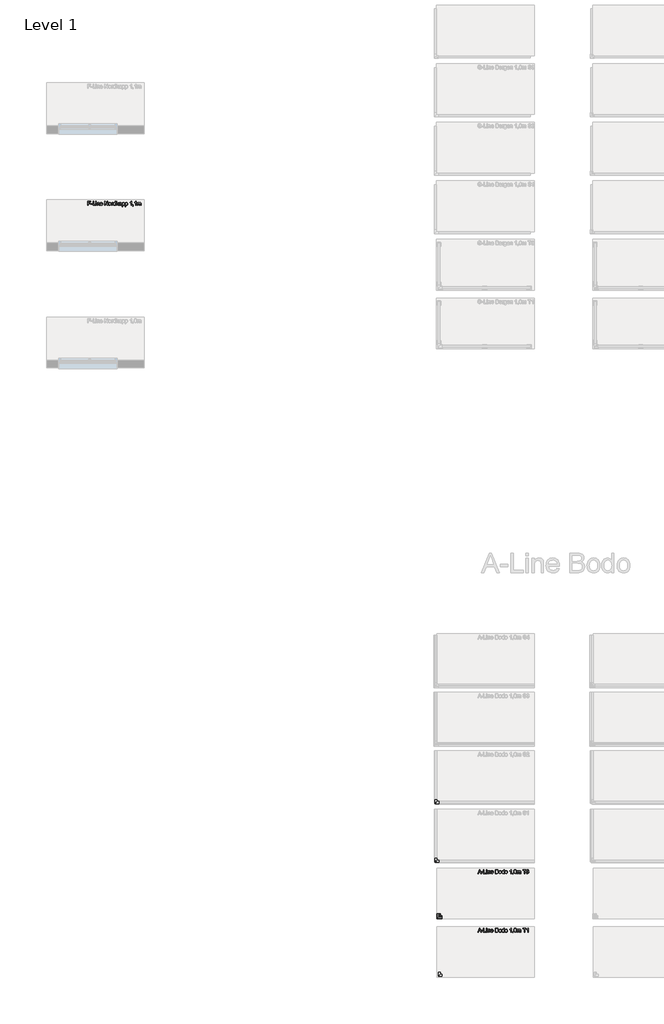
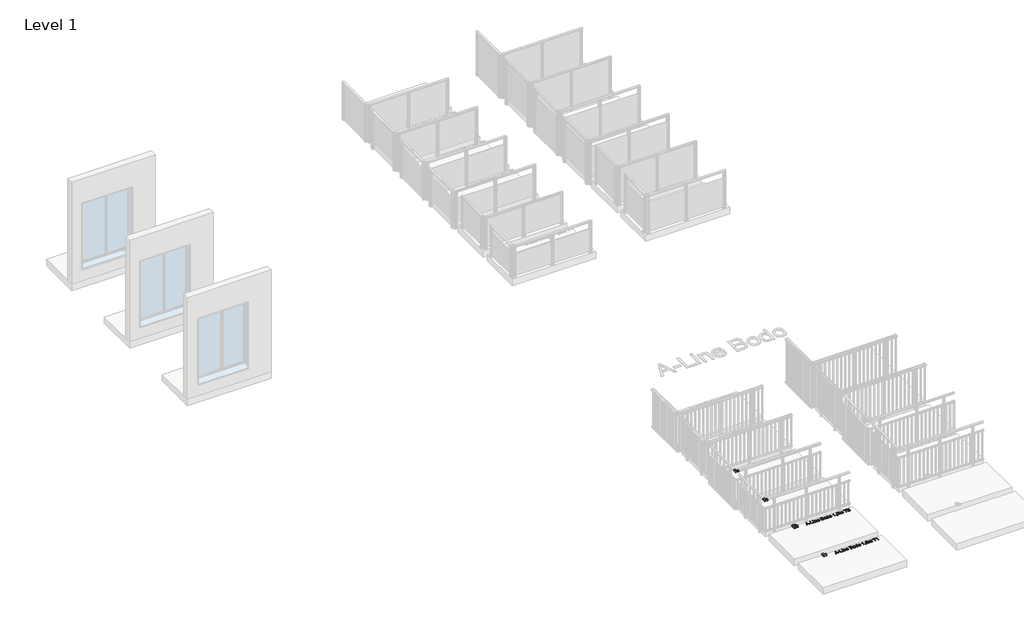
# One storey, part 48 of 66: 7 proxies.
"""IFC4 building model written with IfcOpenShell, lengths in millimetres."""

from ifc_helpers import new_model, si_unit, origin, origin_with_axes, place, context, project, spatial, polyline, outline, extrude, transform, mapped, element, save
from components import generic_models_029e0633, generic_models_224f447f

model = new_model("IFC4")

# Units and contexts
model_context = context("Model", 3, world=origin())
ifc_project = project(units=[si_unit("LENGTHUNIT", "METRE", prefix="MILLI")], contexts=[model_context])

# Site, building, storey
site = spatial("IfcSite", under=ifc_project)
building = spatial("IfcBuilding", under=site)
storey = spatial("IfcBuildingStorey", under=building, Name="Level 1", Elevation=0.0)

# Proxies
placement = place(None, origin())
generic_models_shape = generic_models_029e0633(model_context)
element("IfcBuildingElementProxy", 1, Name="Innore top rail 51x43 corner element : Innore top rail 51x43 element", ObjectType="Innore top rail 51x43 corner element : Innore top rail 51x43 element", at=placement, inside=storey, context=model_context, shape_type="MappedRepresentation", body=[
    mapped(generic_models_shape, transform((4483.61192, -16091.0355576, 1000.0), x_axis=(0.0, -1.0, 0.0), y_axis=(1.0, 0.0, 0.0), z_axis=(0.0, 0.0, 1.0))),
])
element("IfcBuildingElementProxy", 2, Name="Innore top rail 51x43 corner element : Innore top rail 51x43 element", ObjectType="Innore top rail 51x43 corner element : Innore top rail 51x43 element", at=placement, inside=storey, context=model_context, shape_type="MappedRepresentation", body=[
    mapped(generic_models_shape, transform((4564.0547322, -20508.694769, 1000.0), x_axis=(0.0, -1.0, 0.0), y_axis=(1.0, 0.0, 0.0), z_axis=(0.0, 0.0, 1.0))),
])
element("IfcBuildingElementProxy", 3, Name="Innore top rail 51x43 corner element : Innore top rail 51x43 element", ObjectType="Innore top rail 51x43 corner element : Innore top rail 51x43 element", at=placement, inside=storey, context=model_context, shape_type="MappedRepresentation", body=[
    mapped(generic_models_shape, transform((4483.61192, -17590.9416671, 1000.0), x_axis=(0.0, -1.0, 0.0), y_axis=(1.0, 0.0, 0.0), z_axis=(0.0, 0.0, 1.0))),
])
generic_models_2_shape = generic_models_224f447f(model_context)
element("IfcBuildingElementProxy", 4, Name="Innore top rail 81x35 corner element : Innore top rail 81x35 element", ObjectType="Innore top rail 81x35 corner element : Innore top rail 81x35 element", at=placement, inside=storey, context=model_context, shape_type="MappedRepresentation", body=[
    mapped(generic_models_2_shape, transform((4545.5706864, -19028.211505, 1000.0), x_axis=(0.0, -1.0, 0.0), y_axis=(1.0, 0.0, 0.0), z_axis=(0.0, 0.0, 1.0))),
])
element("IfcBuildingElementProxy", 5, Name="100mm Arial", ObjectType="100mm Arial", at=placement, inside=storey, context=model_context, shape_type="SweptSolid", body=[
    extrude(outline(polyline([(5549.8662562, -19409.7113559), (5589.9653937, -19309.2550458), (5600.658497, -19309.2550458), (5640.7576345, -19409.7113559), (5627.4893572, -19409.7113559), (5615.9869135, -19378.318759), (5574.6124518, -19378.318759), (5563.1345335, -19409.7113559), (5549.8662562, -19409.7113559)]), holes=[polyline([(5579.2232395, -19365.7617202), (5611.4006513, -19365.7617202), (5602.3507542, -19341.0645756), (5595.3119454, -19321.8120845), (5589.0579515, -19338.9063346), (5579.2232395, -19365.7617202)])]), origin_with_axes(), (0.0, 0.0, 1.0), 10.0),
    extrude(outline(polyline([(5646.3249154, -19379.8883888), (5646.3249154, -19367.3313501), (5685.5656615, -19367.3313501), (5685.5656615, -19379.8883888), (5646.3249154, -19379.8883888)])), origin_with_axes(), (0.0, 0.0, 1.0), 10.0),
    extrude(outline(polyline([(5701.26196, -19409.7113559), (5701.26196, -19309.2550458), (5713.8189988, -19309.2550458), (5713.8189988, -19397.1543171), (5764.0471538, -19397.1543171), (5764.0471538, -19409.7113559), (5701.26196, -19409.7113559)])), origin_with_axes(), (0.0, 0.0, 1.0), 10.0),
    extrude(outline(polyline([(5776.6041926, -19321.8120845), (5776.6041926, -19309.2550458), (5789.1612314, -19309.2550458), (5789.1612314, -19321.8120845), (5776.6041926, -19321.8120845)])), origin_with_axes(), (0.0, 0.0, 1.0), 10.0),
    extrude(outline(polyline([(5776.6041926, -19409.7113559), (5776.6041926, -19335.9387532), (5789.1612314, -19335.9387532), (5789.1612314, -19409.7113559), (5776.6041926, -19409.7113559)])), origin_with_axes(), (0.0, 0.0, 1.0), 10.0),
    extrude(outline(polyline([(5807.9967895, -19409.7113559), (5807.9967895, -19335.9387532), (5820.5538283, -19335.9387532), (5820.5538283, -19346.239449), (5830.1555484, -19337.3367047), (5843.2644101, -19334.3691233), (5855.1224731, -19336.7603563), (5863.215877, -19343.0388757), (5866.9805361, -19352.2727137), (5867.6427237, -19364.4128196), (5867.6427237, -19409.7113559), (5855.0856849, -19409.7113559), (5855.0856849, -19366.1050768), (5853.6386824, -19354.9950405), (5848.5251227, -19349.1211913), (5839.9044212, -19346.9261621), (5826.2805247, -19351.8557808), (5821.9855024, -19358.9988229), (5820.5538283, -19370.5687116), (5820.5538283, -19409.7113559), (5807.9967895, -19409.7113559)])), origin_with_axes(), (0.0, 0.0, 1.0), 10.0),
    extrude(outline(polyline([(5936.5592841, -19387.7365381), (5948.8710682, -19389.3061679), (5944.4350245, -19398.5829256), (5937.3563618, -19405.5175012), (5927.7944956, -19409.8401146), (5915.9088414, -19411.2809858), (5901.1751675, -19408.7947166), (5889.8382707, -19401.3359092), (5882.6093895, -19389.3889414), (5880.1997624, -19373.4381912), (5882.633915, -19356.9509464), (5889.9363726, -19344.6207682), (5901.1199852, -19336.9320345), (5915.1976029, -19334.3691233), (5928.8368279, -19336.9259032), (5939.735332, -19344.5962428), (5946.8814398, -19356.9018955), (5949.2634757, -19373.3646148), (5949.1898993, -19376.7491291), (5892.7568012, -19376.7491291), (5894.9303707, -19386.1485141), (5899.979551, -19393.0585643), (5907.2666802, -19397.3076013), (5916.1540961, -19398.723947), (5928.4658802, -19396.0997221), (5936.5592841, -19387.7365381)]), holes=[polyline([(5892.7568012, -19364.1920904), (5936.7064369, -19364.1920904), (5931.6787163, -19352.812274), (5924.3578646, -19348.3976901), (5915.148552, -19346.9261621), (5899.6852455, -19351.6227889), (5894.8200061, -19357.1134277), (5892.7568012, -19364.1920904)])]), origin_with_axes(), (0.0, 0.0, 1.0), 10.0),
    extrude(outline(polyline([(6002.6308904, -19409.7113559), (6002.6308904, -19309.2550458), (6040.9641943, -19309.2550458), (6059.7384388, -19312.2103645), (6070.8239496, -19321.2970497), (6074.8338634, -19334.1483941), (6071.4616117, -19345.8838298), (6061.2712805, -19354.7743113), (6073.6443782, -19364.1430394), (6077.973123, -19379.7657615), (6075.0178044, -19393.2670307), (6067.6969527, -19402.8810135), (6056.7708574, -19407.9823105), (6040.6698887, -19409.7113559), (6002.6308904, -19409.7113559)]), holes=[polyline([(6015.1879292, -19397.1543171), (6040.9396689, -19397.1543171), (6050.2593461, -19396.6638078), (6058.1442835, -19393.9292183), (6063.3682078, -19388.3496747), (6065.4160843, -19379.8883888), (6063.0125886, -19370.1272532), (6055.225753, -19364.302455), (6039.7133956, -19362.6224605), (6015.1879292, -19362.6224605), (6015.1879292, -19397.1543171)]), polyline([(6015.1879292, -19350.0654218), (6038.1192402, -19350.0654218), (6051.5101449, -19348.9863012), (6059.5667606, -19344.3387254), (6062.2768246, -19336.1594823), (6059.7507016, -19327.9679766), (6052.515689, -19323.124197), (6036.3779321, -19321.8120845), (6015.1879292, -19321.8120845), (6015.1879292, -19350.0654218)])]), origin_with_axes(), (0.0, 0.0, 1.0), 10.0),
    extrude(outline(polyline([(6090.5301618, -19372.8250545), (6093.2463572, -19355.0379601), (6101.3949434, -19342.5361036), (6111.4626473, -19336.4108684), (6123.5169141, -19334.3691233), (6136.7085493, -19336.8553925), (6147.2453027, -19344.3141999), (6154.1522872, -19356.1569345), (6156.4546154, -19371.7949849), (6152.3833879, -19394.1376848), (6140.525325, -19406.7805627), (6123.5169141, -19411.2809858), (6110.1658633, -19408.8039137), (6099.6413726, -19401.3726974), (6092.8079645, -19389.2816425), (6090.5301618, -19372.8250545)]), holes=[polyline([(6103.0872006, -19372.8005291), (6104.5403345, -19384.165017), (6108.8997361, -19392.2614866), (6115.4602984, -19397.1083319), (6123.5169141, -19398.723947), (6131.5367415, -19397.0991348), (6138.0850411, -19392.2246984), (6142.4444427, -19384.0209299), (6143.8975766, -19372.4081216), (6142.4352457, -19361.3747274), (6138.0482529, -19353.3886225), (6131.4907563, -19348.5417772), (6123.5169141, -19346.9261621), (6115.4602984, -19348.5356458), (6108.8997361, -19353.364097), (6104.5403345, -19361.4421725), (6103.0872006, -19372.8005291)])]), origin_with_axes(), (0.0, 0.0, 1.0), 10.0),
    extrude(outline(polyline([(6216.1005495, -19409.7113559), (6216.1005495, -19397.8655557), (6207.7925478, -19407.9271282), (6196.3084982, -19411.2809858), (6180.7593525, -19406.4249434), (6169.7719436, -19392.8746233), (6165.8723944, -19372.8986309), (6169.4653753, -19352.9103759), (6180.232055, -19339.1515892), (6196.2594472, -19334.3691233), (6207.8354673, -19337.7904259), (6216.1005495, -19346.6809074), (6216.1005495, -19309.2550458), (6228.6575883, -19309.2550458), (6228.6575883, -19409.7113559), (6216.1005495, -19409.7113559)]), holes=[polyline([(6178.4294332, -19372.84958), (6179.8457789, -19384.2079366), (6184.0948159, -19392.2860121), (6190.2691021, -19397.1144633), (6197.4611951, -19398.723947), (6204.6502224, -19397.1880397), (6210.6681587, -19392.5803177), (6214.7424518, -19384.8149419), (6216.1005495, -19373.8060732), (6214.7179263, -19361.7702006), (6210.5700568, -19353.4254107), (6204.3988364, -19348.5509742), (6196.9461603, -19346.9261621), (6189.6804909, -19348.4865949), (6183.7269339, -19353.1678933), (6179.7538084, -19361.2091805), (6178.4294332, -19372.84958)])]), origin_with_axes(), (0.0, 0.0, 1.0), 10.0),
    extrude(outline(polyline([(6244.3538867, -19372.8250545), (6247.0700821, -19355.0379601), (6255.2186683, -19342.5361036), (6265.2863723, -19336.4108684), (6277.340639, -19334.3691233), (6290.5322742, -19336.8553925), (6301.0690277, -19344.3141999), (6307.9760121, -19356.1569345), (6310.2783403, -19371.7949849), (6306.2071129, -19394.1376848), (6294.3490499, -19406.7805627), (6277.340639, -19411.2809858), (6263.9895882, -19408.8039137), (6253.4650975, -19401.3726974), (6246.6316894, -19389.2816425), (6244.3538867, -19372.8250545)]), holes=[polyline([(6256.9109255, -19372.8005291), (6258.3640594, -19384.165017), (6262.723461, -19392.2614866), (6269.2840233, -19397.1083319), (6277.340639, -19398.723947), (6285.3604665, -19397.0991348), (6291.908766, -19392.2246984), (6296.2681676, -19384.0209299), (6297.7213015, -19372.4081216), (6296.2589706, -19361.3747274), (6291.8719778, -19353.3886225), (6285.3144812, -19348.5417772), (6277.340639, -19346.9261621), (6269.2840233, -19348.5356458), (6262.723461, -19353.364097), (6258.3640594, -19361.4421725), (6256.9109255, -19372.8005291)])]), origin_with_axes(), (0.0, 0.0, 1.0), 10.0),
    extrude(outline(polyline([(6407.5953907, -19409.7113559), (6395.038352, -19409.7113559), (6395.038352, -19331.4260673), (6383.1435008, -19339.899616), (6369.9242744, -19346.239449), (6369.9242744, -19334.3691233), (6388.3306369, -19322.6214249), (6399.5019868, -19309.2550458), (6407.5953907, -19309.2550458), (6407.5953907, -19409.7113559)])), origin_with_axes(), (0.0, 0.0, 1.0), 10.0),
    extrude(outline(polyline([(6443.6968772, -19409.7113559), (6443.6968772, -19397.1543171), (6456.253916, -19397.1543171), (6456.253916, -19409.7113559), (6453.9975731, -19422.5504375), (6446.8361369, -19430.1165439), (6443.6968772, -19425.4076544), (6448.3076649, -19419.9875263), (6449.9508711, -19409.7113559), (6443.6968772, -19409.7113559)])), origin_with_axes(), (0.0, 0.0, 1.0), 10.0),
    extrude(outline(polyline([(6476.659104, -19360.2925412), (6480.3501866, -19331.3892791), (6491.3130701, -19314.7242248), (6509.6213307, -19309.2550458), (6524.2875596, -19312.4924073), (6534.4165772, -19321.8243473), (6540.3026891, -19336.6867799), (6542.5835575, -19360.2925412), (6538.929263, -19389.073176), (6528.0031677, -19405.7750186), (6519.7718081, -19409.904494), (6509.6213307, -19411.2809858), (6496.5737826, -19408.8897528), (6486.6654942, -19401.7160539), (6479.1607015, -19384.7260371), (6476.659104, -19360.2925412)]), holes=[polyline([(6489.2161427, -19360.2680158), (6490.6876707, -19380.0202132), (6495.1022546, -19391.4521462), (6501.6750796, -19396.9059968), (6509.6213307, -19398.723947), (6517.5675818, -19396.8998654), (6524.1404068, -19391.4276208), (6528.5549907, -19379.9895564), (6530.0265187, -19360.2680158), (6528.6040417, -19340.9603424), (6524.3366105, -19329.4395046), (6517.7760483, -19323.7189395), (6509.4741779, -19321.8120845), (6501.613766, -19323.492079), (6495.2984584, -19328.5320623), (6490.7367216, -19340.77027), (6489.2161427, -19360.2680158)])]), origin_with_axes(), (0.0, 0.0, 1.0), 10.0),
    extrude(outline(polyline([(6556.7102261, -19409.7113559), (6556.7102261, -19335.9387532), (6569.2672649, -19335.9387532), (6569.2672649, -19348.078859), (6577.900229, -19338.1337824), (6590.1874877, -19334.3691233), (6602.7690519, -19338.2073588), (6609.6852334, -19348.9617758), (6619.4831572, -19338.0172864), (6631.856255, -19334.3691233), (6641.2954938, -19335.8866365), (6648.2760547, -19340.4391762), (6652.5894711, -19348.1493697), (6654.0272766, -19359.1398443), (6654.0272766, -19409.7113559), (6641.4702378, -19409.7113559), (6641.4702378, -19364.5354469), (6640.3052781, -19354.05081), (6636.0868979, -19348.8881994), (6628.913199, -19346.9261621), (6616.5646267, -19351.9538827), (6612.8766097, -19358.4960508), (6611.6472707, -19368.0671141), (6611.6472707, -19409.7113559), (6599.090232, -19409.7113559), (6599.090232, -19363.1374953), (6596.1839642, -19350.972864), (6586.6558205, -19346.9261621), (6577.3606688, -19349.6239634), (6571.1802513, -19357.5211635), (6569.2672649, -19372.5062235), (6569.2672649, -19409.7113559), (6556.7102261, -19409.7113559)])), origin_with_axes(), (0.0, 0.0, 1.0), 10.0),
    extrude(outline(polyline([(6738.7872883, -19409.7113559), (6738.7872883, -19321.8120845), (6705.8250615, -19321.8120845), (6705.8250615, -19309.2550458), (6784.3065538, -19309.2550458), (6784.3065538, -19321.8120845), (6751.344327, -19321.8120845), (6751.344327, -19409.7113559), (6738.7872883, -19409.7113559)])), origin_with_axes(), (0.0, 0.0, 1.0), 10.0),
    extrude(outline(polyline([(6840.8132282, -19409.7113559), (6828.2561895, -19409.7113559), (6828.2561895, -19331.4260673), (6816.3613383, -19339.899616), (6803.1421119, -19346.239449), (6803.1421119, -19334.3691233), (6821.5484744, -19322.6214249), (6832.7198244, -19309.2550458), (6840.8132282, -19309.2550458), (6840.8132282, -19409.7113559)])), origin_with_axes(), (0.0, 0.0, 1.0), 10.0),
])
element("IfcBuildingElementProxy", 6, Name="100mm Arial", ObjectType="100mm Arial", at=placement, inside=storey, context=model_context, shape_type="SweptSolid", body=[
    extrude(outline(polyline([(5549.8662562, -17909.7113559), (5589.9653937, -17809.2550458), (5600.658497, -17809.2550458), (5640.7576345, -17909.7113559), (5627.4893572, -17909.7113559), (5615.9869135, -17878.318759), (5574.6124518, -17878.318759), (5563.1345335, -17909.7113559), (5549.8662562, -17909.7113559)]), holes=[polyline([(5579.2232395, -17865.7617202), (5611.4006513, -17865.7617202), (5602.3507542, -17841.0645756), (5595.3119454, -17821.8120845), (5589.0579515, -17838.9063346), (5579.2232395, -17865.7617202)])]), origin_with_axes(), (0.0, 0.0, 1.0), 10.0),
    extrude(outline(polyline([(5646.3249154, -17879.8883888), (5646.3249154, -17867.3313501), (5685.5656615, -17867.3313501), (5685.5656615, -17879.8883888), (5646.3249154, -17879.8883888)])), origin_with_axes(), (0.0, 0.0, 1.0), 10.0),
    extrude(outline(polyline([(5701.26196, -17909.7113559), (5701.26196, -17809.2550458), (5713.8189988, -17809.2550458), (5713.8189988, -17897.1543171), (5764.0471538, -17897.1543171), (5764.0471538, -17909.7113559), (5701.26196, -17909.7113559)])), origin_with_axes(), (0.0, 0.0, 1.0), 10.0),
    extrude(outline(polyline([(5776.6041926, -17821.8120845), (5776.6041926, -17809.2550458), (5789.1612314, -17809.2550458), (5789.1612314, -17821.8120845), (5776.6041926, -17821.8120845)])), origin_with_axes(), (0.0, 0.0, 1.0), 10.0),
    extrude(outline(polyline([(5776.6041926, -17909.7113559), (5776.6041926, -17835.9387532), (5789.1612314, -17835.9387532), (5789.1612314, -17909.7113559), (5776.6041926, -17909.7113559)])), origin_with_axes(), (0.0, 0.0, 1.0), 10.0),
    extrude(outline(polyline([(5807.9967895, -17909.7113559), (5807.9967895, -17835.9387532), (5820.5538283, -17835.9387532), (5820.5538283, -17846.239449), (5830.1555484, -17837.3367047), (5843.2644101, -17834.3691233), (5855.1224731, -17836.7603563), (5863.215877, -17843.0388757), (5866.9805361, -17852.2727137), (5867.6427237, -17864.4128196), (5867.6427237, -17909.7113559), (5855.0856849, -17909.7113559), (5855.0856849, -17866.1050768), (5853.6386824, -17854.9950405), (5848.5251227, -17849.1211913), (5839.9044212, -17846.9261621), (5826.2805247, -17851.8557808), (5821.9855024, -17858.9988229), (5820.5538283, -17870.5687116), (5820.5538283, -17909.7113559), (5807.9967895, -17909.7113559)])), origin_with_axes(), (0.0, 0.0, 1.0), 10.0),
    extrude(outline(polyline([(5936.5592841, -17887.7365381), (5948.8710682, -17889.3061679), (5944.4350245, -17898.5829256), (5937.3563618, -17905.5175012), (5927.7944956, -17909.8401146), (5915.9088414, -17911.2809858), (5901.1751675, -17908.7947166), (5889.8382707, -17901.3359092), (5882.6093895, -17889.3889414), (5880.1997624, -17873.4381912), (5882.633915, -17856.9509464), (5889.9363726, -17844.6207682), (5901.1199852, -17836.9320345), (5915.1976029, -17834.3691233), (5928.8368279, -17836.9259032), (5939.735332, -17844.5962428), (5946.8814398, -17856.9018955), (5949.2634757, -17873.3646148), (5949.1898993, -17876.7491291), (5892.7568012, -17876.7491291), (5894.9303707, -17886.1485141), (5899.979551, -17893.0585643), (5907.2666802, -17897.3076013), (5916.1540961, -17898.723947), (5928.4658802, -17896.0997221), (5936.5592841, -17887.7365381)]), holes=[polyline([(5892.7568012, -17864.1920904), (5936.7064369, -17864.1920904), (5931.6787163, -17852.812274), (5924.3578646, -17848.3976901), (5915.148552, -17846.9261621), (5899.6852455, -17851.6227889), (5894.8200061, -17857.1134277), (5892.7568012, -17864.1920904)])]), origin_with_axes(), (0.0, 0.0, 1.0), 10.0),
    extrude(outline(polyline([(6002.6308904, -17909.7113559), (6002.6308904, -17809.2550458), (6040.9641943, -17809.2550458), (6059.7384388, -17812.2103645), (6070.8239496, -17821.2970497), (6074.8338634, -17834.1483941), (6071.4616117, -17845.8838298), (6061.2712805, -17854.7743113), (6073.6443782, -17864.1430394), (6077.973123, -17879.7657615), (6075.0178044, -17893.2670307), (6067.6969527, -17902.8810135), (6056.7708574, -17907.9823105), (6040.6698887, -17909.7113559), (6002.6308904, -17909.7113559)]), holes=[polyline([(6015.1879292, -17897.1543171), (6040.9396689, -17897.1543171), (6050.2593461, -17896.6638078), (6058.1442835, -17893.9292183), (6063.3682078, -17888.3496747), (6065.4160843, -17879.8883888), (6063.0125886, -17870.1272532), (6055.225753, -17864.302455), (6039.7133956, -17862.6224605), (6015.1879292, -17862.6224605), (6015.1879292, -17897.1543171)]), polyline([(6015.1879292, -17850.0654218), (6038.1192402, -17850.0654218), (6051.5101449, -17848.9863012), (6059.5667606, -17844.3387254), (6062.2768246, -17836.1594823), (6059.7507016, -17827.9679766), (6052.515689, -17823.124197), (6036.3779321, -17821.8120845), (6015.1879292, -17821.8120845), (6015.1879292, -17850.0654218)])]), origin_with_axes(), (0.0, 0.0, 1.0), 10.0),
    extrude(outline(polyline([(6090.5301618, -17872.8250545), (6093.2463572, -17855.0379601), (6101.3949434, -17842.5361036), (6111.4626473, -17836.4108684), (6123.5169141, -17834.3691233), (6136.7085493, -17836.8553925), (6147.2453027, -17844.3141999), (6154.1522872, -17856.1569345), (6156.4546154, -17871.7949849), (6152.3833879, -17894.1376848), (6140.525325, -17906.7805627), (6123.5169141, -17911.2809858), (6110.1658633, -17908.8039137), (6099.6413726, -17901.3726974), (6092.8079645, -17889.2816425), (6090.5301618, -17872.8250545)]), holes=[polyline([(6103.0872006, -17872.8005291), (6104.5403345, -17884.165017), (6108.8997361, -17892.2614866), (6115.4602984, -17897.1083319), (6123.5169141, -17898.723947), (6131.5367415, -17897.0991348), (6138.0850411, -17892.2246984), (6142.4444427, -17884.0209299), (6143.8975766, -17872.4081216), (6142.4352457, -17861.3747274), (6138.0482529, -17853.3886225), (6131.4907563, -17848.5417772), (6123.5169141, -17846.9261621), (6115.4602984, -17848.5356458), (6108.8997361, -17853.364097), (6104.5403345, -17861.4421725), (6103.0872006, -17872.8005291)])]), origin_with_axes(), (0.0, 0.0, 1.0), 10.0),
    extrude(outline(polyline([(6216.1005495, -17909.7113559), (6216.1005495, -17897.8655557), (6207.7925478, -17907.9271282), (6196.3084982, -17911.2809858), (6180.7593525, -17906.4249434), (6169.7719436, -17892.8746233), (6165.8723944, -17872.8986309), (6169.4653753, -17852.9103759), (6180.232055, -17839.1515892), (6196.2594472, -17834.3691233), (6207.8354673, -17837.7904259), (6216.1005495, -17846.6809074), (6216.1005495, -17809.2550458), (6228.6575883, -17809.2550458), (6228.6575883, -17909.7113559), (6216.1005495, -17909.7113559)]), holes=[polyline([(6178.4294332, -17872.84958), (6179.8457789, -17884.2079366), (6184.0948159, -17892.2860121), (6190.2691021, -17897.1144633), (6197.4611951, -17898.723947), (6204.6502224, -17897.1880397), (6210.6681587, -17892.5803177), (6214.7424518, -17884.8149419), (6216.1005495, -17873.8060732), (6214.7179263, -17861.7702006), (6210.5700568, -17853.4254107), (6204.3988364, -17848.5509742), (6196.9461603, -17846.9261621), (6189.6804909, -17848.4865949), (6183.7269339, -17853.1678933), (6179.7538084, -17861.2091805), (6178.4294332, -17872.84958)])]), origin_with_axes(), (0.0, 0.0, 1.0), 10.0),
    extrude(outline(polyline([(6244.3538867, -17872.8250545), (6247.0700821, -17855.0379601), (6255.2186683, -17842.5361036), (6265.2863723, -17836.4108684), (6277.340639, -17834.3691233), (6290.5322742, -17836.8553925), (6301.0690277, -17844.3141999), (6307.9760121, -17856.1569345), (6310.2783403, -17871.7949849), (6306.2071129, -17894.1376848), (6294.3490499, -17906.7805627), (6277.340639, -17911.2809858), (6263.9895882, -17908.8039137), (6253.4650975, -17901.3726974), (6246.6316894, -17889.2816425), (6244.3538867, -17872.8250545)]), holes=[polyline([(6256.9109255, -17872.8005291), (6258.3640594, -17884.165017), (6262.723461, -17892.2614866), (6269.2840233, -17897.1083319), (6277.340639, -17898.723947), (6285.3604665, -17897.0991348), (6291.908766, -17892.2246984), (6296.2681676, -17884.0209299), (6297.7213015, -17872.4081216), (6296.2589706, -17861.3747274), (6291.8719778, -17853.3886225), (6285.3144812, -17848.5417772), (6277.340639, -17846.9261621), (6269.2840233, -17848.5356458), (6262.723461, -17853.364097), (6258.3640594, -17861.4421725), (6256.9109255, -17872.8005291)])]), origin_with_axes(), (0.0, 0.0, 1.0), 10.0),
    extrude(outline(polyline([(6407.5953907, -17909.7113559), (6395.038352, -17909.7113559), (6395.038352, -17831.4260673), (6383.1435008, -17839.899616), (6369.9242744, -17846.239449), (6369.9242744, -17834.3691233), (6388.3306369, -17822.6214249), (6399.5019868, -17809.2550458), (6407.5953907, -17809.2550458), (6407.5953907, -17909.7113559)])), origin_with_axes(), (0.0, 0.0, 1.0), 10.0),
    extrude(outline(polyline([(6443.6968772, -17909.7113559), (6443.6968772, -17897.1543171), (6456.253916, -17897.1543171), (6456.253916, -17909.7113559), (6453.9975731, -17922.5504375), (6446.8361369, -17930.1165439), (6443.6968772, -17925.4076544), (6448.3076649, -17919.9875263), (6449.9508711, -17909.7113559), (6443.6968772, -17909.7113559)])), origin_with_axes(), (0.0, 0.0, 1.0), 10.0),
    extrude(outline(polyline([(6476.659104, -17860.2925412), (6480.3501866, -17831.3892791), (6491.3130701, -17814.7242248), (6509.6213307, -17809.2550458), (6524.2875596, -17812.4924073), (6534.4165772, -17821.8243473), (6540.3026891, -17836.6867799), (6542.5835575, -17860.2925412), (6538.929263, -17889.073176), (6528.0031677, -17905.7750186), (6519.7718081, -17909.904494), (6509.6213307, -17911.2809858), (6496.5737826, -17908.8897528), (6486.6654942, -17901.7160539), (6479.1607015, -17884.7260371), (6476.659104, -17860.2925412)]), holes=[polyline([(6489.2161427, -17860.2680158), (6490.6876707, -17880.0202132), (6495.1022546, -17891.4521462), (6501.6750796, -17896.9059968), (6509.6213307, -17898.723947), (6517.5675818, -17896.8998654), (6524.1404068, -17891.4276208), (6528.5549907, -17879.9895564), (6530.0265187, -17860.2680158), (6528.6040417, -17840.9603424), (6524.3366105, -17829.4395046), (6517.7760483, -17823.7189395), (6509.4741779, -17821.8120845), (6501.613766, -17823.492079), (6495.2984584, -17828.5320623), (6490.7367216, -17840.77027), (6489.2161427, -17860.2680158)])]), origin_with_axes(), (0.0, 0.0, 1.0), 10.0),
    extrude(outline(polyline([(6556.7102261, -17909.7113559), (6556.7102261, -17835.9387532), (6569.2672649, -17835.9387532), (6569.2672649, -17848.078859), (6577.900229, -17838.1337824), (6590.1874877, -17834.3691233), (6602.7690519, -17838.2073588), (6609.6852334, -17848.9617758), (6619.4831572, -17838.0172864), (6631.856255, -17834.3691233), (6641.2954938, -17835.8866365), (6648.2760547, -17840.4391762), (6652.5894711, -17848.1493697), (6654.0272766, -17859.1398443), (6654.0272766, -17909.7113559), (6641.4702378, -17909.7113559), (6641.4702378, -17864.5354469), (6640.3052781, -17854.05081), (6636.0868979, -17848.8881994), (6628.913199, -17846.9261621), (6616.5646267, -17851.9538827), (6612.8766097, -17858.4960508), (6611.6472707, -17868.0671141), (6611.6472707, -17909.7113559), (6599.090232, -17909.7113559), (6599.090232, -17863.1374953), (6596.1839642, -17850.972864), (6586.6558205, -17846.9261621), (6577.3606688, -17849.6239634), (6571.1802513, -17857.5211635), (6569.2672649, -17872.5062235), (6569.2672649, -17909.7113559), (6556.7102261, -17909.7113559)])), origin_with_axes(), (0.0, 0.0, 1.0), 10.0),
    extrude(outline(polyline([(6738.7872883, -17909.7113559), (6738.7872883, -17821.8120845), (6705.8250615, -17821.8120845), (6705.8250615, -17809.2550458), (6784.3065538, -17809.2550458), (6784.3065538, -17821.8120845), (6751.344327, -17821.8120845), (6751.344327, -17909.7113559), (6738.7872883, -17909.7113559)])), origin_with_axes(), (0.0, 0.0, 1.0), 10.0),
    extrude(outline(polyline([(6793.7243329, -17883.0276485), (6806.2813716, -17881.4580187), (6813.2098159, -17894.677245), (6826.1715248, -17898.723947), (6834.7799635, -17897.3321268), (6841.4263649, -17893.1566661), (6847.0917476, -17879.373354), (6841.4754158, -17866.3871196), (6827.2015944, -17861.2490344), (6818.396952, -17862.6224605), (6819.7949036, -17850.0654218), (6821.8059918, -17850.2125746), (6836.0552878, -17846.607331), (6840.8009655, -17842.0333315), (6842.3828581, -17835.5218202), (6837.7965959, -17825.699371), (6825.9753211, -17821.8120845), (6814.0068935, -17825.7361592), (6807.8510015, -17837.508383), (6795.2939627, -17835.9387532), (6798.9911768, -17824.66317), (6805.5701331, -17816.2448037), (6814.5709793, -17811.0024852), (6825.5338627, -17809.2550458), (6840.6783382, -17812.7008738), (6851.2733396, -17822.1186529), (6854.9398969, -17834.7860562), (6851.4572806, -17846.3620763), (6841.1565848, -17854.6762094), (6854.841795, -17863.2601227), (6859.6487864, -17879.5940832), (6857.2452907, -17891.832291), (6850.0348036, -17902.0594104), (6839.1516279, -17908.9755919), (6825.7300664, -17911.2809858), (6813.5899606, -17909.3128171), (6803.7061977, -17903.4083111), (6796.8329357, -17894.3768081), (6793.7243329, -17883.0276485)])), origin_with_axes(), (0.0, 0.0, 1.0), 10.0),
])
element("IfcBuildingElementProxy", 7, Name="100mm Arial", ObjectType="100mm Arial", at=placement, inside=storey, context=model_context, shape_type="SweptSolid", body=[
    extrude(outline(polyline([(-4437.4350963, -809.7113559), (-4437.4350963, -709.2550458), (-4369.9410129, -709.2550458), (-4369.9410129, -721.8120845), (-4424.8780575, -721.8120845), (-4424.8780575, -751.6350516), (-4377.7891622, -751.6350516), (-4377.7891622, -764.1920904), (-4424.8780575, -764.1920904), (-4424.8780575, -809.7113559), (-4437.4350963, -809.7113559)])), origin_with_axes(), (0.0, 0.0, 1.0), 10.0),
    extrude(outline(polyline([(-4360.5232339, -779.8883888), (-4360.5232339, -767.3313501), (-4321.2824877, -767.3313501), (-4321.2824877, -779.8883888), (-4360.5232339, -779.8883888)])), origin_with_axes(), (0.0, 0.0, 1.0), 10.0),
    extrude(outline(polyline([(-4305.5861892, -809.7113559), (-4305.5861892, -709.2550458), (-4293.0291505, -709.2550458), (-4293.0291505, -797.1543171), (-4242.8009954, -797.1543171), (-4242.8009954, -809.7113559), (-4305.5861892, -809.7113559)])), origin_with_axes(), (0.0, 0.0, 1.0), 10.0),
    extrude(outline(polyline([(-4230.2439566, -721.8120845), (-4230.2439566, -709.2550458), (-4217.6869179, -709.2550458), (-4217.6869179, -721.8120845), (-4230.2439566, -721.8120845)])), origin_with_axes(), (0.0, 0.0, 1.0), 10.0),
    extrude(outline(polyline([(-4230.2439566, -809.7113559), (-4230.2439566, -735.9387531), (-4217.6869179, -735.9387531), (-4217.6869179, -809.7113559), (-4230.2439566, -809.7113559)])), origin_with_axes(), (0.0, 0.0, 1.0), 10.0),
    extrude(outline(polyline([(-4198.8513597, -809.7113559), (-4198.8513597, -735.9387531), (-4186.2943209, -735.9387531), (-4186.2943209, -746.239449), (-4176.6926009, -737.3367047), (-4163.5837391, -734.3691233), (-4151.7256761, -736.7603563), (-4143.6322722, -743.0388757), (-4139.8676131, -752.2727137), (-4139.2054256, -764.4128196), (-4139.2054256, -809.7113559), (-4151.7624643, -809.7113559), (-4151.7624643, -766.1050768), (-4153.2094668, -754.9950405), (-4158.3230266, -749.1211913), (-4166.943728, -746.9261621), (-4180.5676245, -751.8557808), (-4184.8626468, -758.9988229), (-4186.2943209, -770.5687116), (-4186.2943209, -809.7113559), (-4198.8513597, -809.7113559)])), origin_with_axes(), (0.0, 0.0, 1.0), 10.0),
    extrude(outline(polyline([(-4070.2888651, -787.7365381), (-4057.977081, -789.3061679), (-4062.4131247, -798.5829256), (-4069.4917875, -805.5175012), (-4079.0536537, -809.8401146), (-4090.9393078, -811.2809858), (-4105.6729817, -808.7947166), (-4117.0098785, -801.3359092), (-4124.2387597, -789.3889414), (-4126.6483868, -773.4381912), (-4124.2142343, -756.9509464), (-4116.9117766, -744.6207682), (-4105.728164, -736.9320345), (-4091.6505463, -734.3691233), (-4078.0113213, -736.9259032), (-4067.1128172, -744.5962428), (-4059.9667095, -756.9018955), (-4057.5846736, -773.3646148), (-4057.65825, -776.7491291), (-4114.091348, -776.7491291), (-4111.9177786, -786.1485141), (-4106.8685982, -793.0585643), (-4099.581469, -797.3076013), (-4090.6940531, -798.723947), (-4078.382269, -796.0997221), (-4070.2888651, -787.7365381)]), holes=[polyline([(-4114.091348, -764.1920904), (-4070.1417123, -764.1920904), (-4075.1694329, -752.812274), (-4082.4902846, -748.3976901), (-4091.6995972, -746.9261621), (-4107.1629038, -751.6227889), (-4112.0281432, -757.1134277), (-4114.091348, -764.1920904)])]), origin_with_axes(), (0.0, 0.0, 1.0), 10.0),
    extrude(outline(polyline([(-4004.2172588, -809.7113559), (-4004.2172588, -709.2550458), (-3990.7773032, -709.2550458), (-3938.2928053, -788.8401841), (-3938.2928053, -709.2550458), (-3925.7357665, -709.2550458), (-3925.7357665, -809.7113559), (-3939.175722, -809.7113559), (-3991.66022, -730.1016922), (-3991.66022, -809.7113559), (-4004.2172588, -809.7113559)])), origin_with_axes(), (0.0, 0.0, 1.0), 10.0),
    extrude(outline(polyline([(-3908.4698382, -772.8250545), (-3905.7536428, -755.0379601), (-3897.6050566, -742.5361036), (-3887.5373527, -736.4108684), (-3875.4830859, -734.3691233), (-3862.2914507, -736.8553925), (-3851.7546973, -744.3141999), (-3844.8477128, -756.1569345), (-3842.5453846, -771.7949849), (-3846.6166121, -794.1376848), (-3858.474675, -806.7805627), (-3875.4830859, -811.2809858), (-3888.8341367, -808.8039137), (-3899.3586274, -801.3726974), (-3906.1920355, -789.2816425), (-3908.4698382, -772.8250545)]), holes=[polyline([(-3895.9127994, -772.8005291), (-3894.4596655, -784.165017), (-3890.1002639, -792.2614866), (-3883.5397016, -797.1083319), (-3875.4830859, -798.723947), (-3867.4632585, -797.0991348), (-3860.9149589, -792.2246984), (-3856.5555573, -784.0209299), (-3855.1024234, -772.4081216), (-3856.5647543, -761.3747274), (-3860.9517471, -753.3886225), (-3867.5092437, -748.5417772), (-3875.4830859, -746.9261621), (-3883.5397016, -748.5356458), (-3890.1002639, -753.364097), (-3894.4596655, -761.4421725), (-3895.9127994, -772.8005291)])]), origin_with_axes(), (0.0, 0.0, 1.0), 10.0),
    extrude(outline(polyline([(-3828.418716, -809.7113559), (-3828.418716, -735.9387531), (-3817.4313071, -735.9387531), (-3817.4313071, -746.8525857), (-3809.6322088, -736.7971445), (-3801.7840596, -734.3691233), (-3789.1779699, -738.244147), (-3793.3718246, -749.501336), (-3802.2009925, -746.9261621), (-3809.301115, -749.4032342), (-3813.8260636, -756.2703648), (-3815.8616773, -770.9365936), (-3815.8616773, -809.7113559), (-3828.418716, -809.7113559)])), origin_with_axes(), (0.0, 0.0, 1.0), 10.0),
    extrude(outline(polyline([(-3735.8105551, -809.7113559), (-3735.8105551, -797.8655557), (-3744.1185568, -807.9271282), (-3755.6026065, -811.2809858), (-3771.1517521, -806.4249434), (-3782.139161, -792.8746233), (-3786.0387102, -772.8986309), (-3782.4457294, -752.9103759), (-3771.6790496, -739.1515892), (-3755.6516574, -734.3691233), (-3744.0756373, -737.7904259), (-3735.8105551, -746.6809074), (-3735.8105551, -709.2550458), (-3723.2535163, -709.2550458), (-3723.2535163, -809.7113559), (-3735.8105551, -809.7113559)]), holes=[polyline([(-3773.4816714, -772.84958), (-3772.0653257, -784.2079366), (-3767.8162887, -792.2860121), (-3761.6420025, -797.1144633), (-3754.4499095, -798.723947), (-3747.2608822, -797.1880397), (-3741.2429459, -792.5803177), (-3737.1686528, -784.8149419), (-3735.8105551, -773.8060732), (-3737.1931783, -761.7702006), (-3741.3410478, -753.4254107), (-3747.5122682, -748.5509742), (-3754.9649443, -746.9261621), (-3762.2306137, -748.4865949), (-3768.1841707, -753.1678933), (-3772.1572962, -761.2091805), (-3773.4816714, -772.84958)])]), origin_with_axes(), (0.0, 0.0, 1.0), 10.0),
    extrude(outline(polyline([(-3704.4179582, -809.7113559), (-3704.4179582, -709.2550458), (-3691.8609194, -709.2550458), (-3691.8609194, -763.2355972), (-3663.7056841, -735.9387531), (-3646.3416539, -735.9387531), (-3674.8402458, -763.5789537), (-3644.772024, -809.7113559), (-3659.4382529, -809.7113559), (-3683.8410919, -772.3100197), (-3691.8609194, -780.0845926), (-3691.8609194, -809.7113559), (-3704.4179582, -809.7113559)])), origin_with_axes(), (0.0, 0.0, 1.0), 10.0),
    extrude(outline(polyline([(-3586.6957197, -800.2935768), (-3598.8726138, -808.8039137), (-3612.3248321, -811.2809858), (-3622.818666, -809.7910637), (-3630.5595163, -805.3212974), (-3635.3327852, -798.5338746), (-3636.9238748, -790.0909828), (-3634.5203791, -780.158169), (-3628.2050715, -772.9476819), (-3619.4126918, -768.8274035), (-3608.5479102, -766.9389426), (-3586.7692961, -762.6224605), (-3586.6957197, -759.8265574), (-3590.1538105, -750.5559311), (-3604.0352244, -746.9261621), (-3616.739416, -749.3419205), (-3622.7972062, -757.913571), (-3635.354245, -756.3439411), (-3629.9218542, -744.081208), (-3618.9834962, -736.8952463), (-3602.4165437, -734.3691233), (-3587.1984918, -736.6009407), (-3578.6023158, -742.2050098), (-3574.7518176, -750.7276094), (-3574.138681, -761.7150183), (-3574.138681, -777.3377403), (-3573.5010188, -799.1531427), (-3570.9994213, -809.7113559), (-3583.55646, -809.7113559), (-3586.6957197, -800.2935768)]), holes=[polyline([(-3586.6957197, -775.1794993), (-3606.9537549, -779.0299975), (-3617.7572229, -781.0656112), (-3622.6500534, -784.3765492), (-3624.366836, -789.2080661), (-3620.6267024, -796.0016202), (-3609.6515562, -798.723947), (-3596.9473647, -795.7195774), (-3588.7558589, -788.4477766), (-3586.7692961, -778.7356919), (-3586.6957197, -775.1794993)])]), origin_with_axes(), (0.0, 0.0, 1.0), 10.0),
    extrude(outline(polyline([(-3556.8727527, -837.9646931), (-3556.8727527, -735.9387531), (-3544.3157139, -735.9387531), (-3544.3157139, -748.2505373), (-3535.6336988, -737.8394768), (-3523.9105259, -734.3691233), (-3507.9934982, -739.2251656), (-3497.5947005, -752.9103759), (-3494.0875588, -772.2609688), (-3498.0484216, -792.6048431), (-3509.5508653, -806.4617316), (-3525.4311048, -811.2809858), (-3536.3572001, -808.0558869), (-3544.3157139, -799.9011694), (-3544.3157139, -837.9646931), (-3556.8727527, -837.9646931)]), holes=[polyline([(-3544.3157139, -773.4136657), (-3542.9576162, -784.6708548), (-3538.8833231, -792.5435295), (-3532.8715182, -797.1788426), (-3525.7008849, -798.723947), (-3518.4137557, -797.1236603), (-3512.2486666, -792.3228003), (-3508.0456148, -784.1619514), (-3506.6445976, -772.481698), (-3508.0118923, -761.2858226), (-3512.1137766, -753.3027833), (-3518.1163845, -748.5203174), (-3525.1858501, -746.9261621), (-3532.282907, -748.6214849), (-3538.5154411, -753.7074535), (-3542.8656457, -762.0246523), (-3544.3157139, -773.4136657)])]), origin_with_axes(), (0.0, 0.0, 1.0), 10.0),
    extrude(outline(polyline([(-3479.9608902, -837.9646931), (-3479.9608902, -735.9387531), (-3467.4038514, -735.9387531), (-3467.4038514, -748.2505373), (-3458.7218363, -737.8394768), (-3446.9986634, -734.3691233), (-3431.0816358, -739.2251656), (-3420.682838, -752.9103759), (-3417.1756964, -772.2609688), (-3421.1365592, -792.6048431), (-3432.6390029, -806.4617316), (-3448.5192423, -811.2809858), (-3459.4453376, -808.0558869), (-3467.4038514, -799.9011694), (-3467.4038514, -837.9646931), (-3479.9608902, -837.9646931)]), holes=[polyline([(-3467.4038514, -773.4136657), (-3466.0457537, -784.6708548), (-3461.9714606, -792.5435295), (-3455.9596557, -797.1788426), (-3448.7890225, -798.723947), (-3441.5018933, -797.1236603), (-3435.3368042, -792.3228003), (-3431.1337524, -784.1619514), (-3429.7327351, -772.481698), (-3431.1000299, -761.2858226), (-3435.2019141, -753.3027833), (-3441.204522, -748.5203174), (-3448.2739877, -746.9261621), (-3455.3710445, -748.6214849), (-3461.6035786, -753.7074535), (-3465.9537832, -762.0246523), (-3467.4038514, -773.4136657)])]), origin_with_axes(), (0.0, 0.0, 1.0), 10.0),
    extrude(outline(polyline([(-3319.8586459, -809.7113559), (-3332.4156847, -809.7113559), (-3332.4156847, -731.4260673), (-3344.3105358, -739.899616), (-3357.5297622, -746.239449), (-3357.5297622, -734.3691233), (-3339.1233997, -722.6214249), (-3327.9520498, -709.2550458), (-3319.8586459, -709.2550458), (-3319.8586459, -809.7113559)])), origin_with_axes(), (0.0, 0.0, 1.0), 10.0),
    extrude(outline(polyline([(-3283.7571594, -809.7113559), (-3283.7571594, -797.1543171), (-3271.2001207, -797.1543171), (-3271.2001207, -809.7113559), (-3273.4564636, -822.5504375), (-3280.6178997, -830.1165439), (-3283.7571594, -825.4076544), (-3279.1463718, -819.9875263), (-3277.5031655, -809.7113559), (-3283.7571594, -809.7113559)])), origin_with_axes(), (0.0, 0.0, 1.0), 10.0),
    extrude(outline(polyline([(-3203.7060373, -809.7113559), (-3216.2630761, -809.7113559), (-3216.2630761, -731.4260673), (-3228.1579272, -739.899616), (-3241.3771536, -746.239449), (-3241.3771536, -734.3691233), (-3222.9707911, -722.6214249), (-3211.7994412, -709.2550458), (-3203.7060373, -709.2550458), (-3203.7060373, -809.7113559)])), origin_with_axes(), (0.0, 0.0, 1.0), 10.0),
    extrude(outline(polyline([(-3170.7438105, -809.7113559), (-3170.7438105, -735.9387531), (-3158.1867718, -735.9387531), (-3158.1867718, -748.078859), (-3149.5538076, -738.1337824), (-3137.266549, -734.3691233), (-3124.6849847, -738.2073588), (-3117.7688032, -748.9617758), (-3107.9708794, -738.0172864), (-3095.5977816, -734.3691233), (-3086.1585428, -735.8866365), (-3079.1779819, -740.4391762), (-3074.8645655, -748.1493697), (-3073.4267601, -759.1398443), (-3073.4267601, -809.7113559), (-3085.9837988, -809.7113559), (-3085.9837988, -764.5354469), (-3087.1487585, -754.05081), (-3091.3671387, -748.8881994), (-3098.5408376, -746.9261621), (-3110.8894099, -751.9538827), (-3114.5774269, -758.4960508), (-3115.8067659, -768.0671141), (-3115.8067659, -809.7113559), (-3128.3638047, -809.7113559), (-3128.3638047, -763.1374953), (-3131.2700724, -750.972864), (-3140.7982161, -746.9261621), (-3150.0933679, -749.6239634), (-3156.2737854, -757.5211635), (-3158.1867718, -772.5062235), (-3158.1867718, -809.7113559), (-3170.7438105, -809.7113559)])), origin_with_axes(), (0.0, 0.0, 1.0), 10.0),
])

save(model, "model.ifc")
